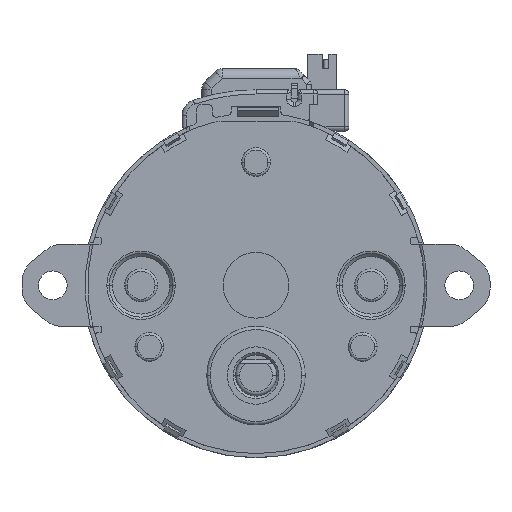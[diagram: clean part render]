
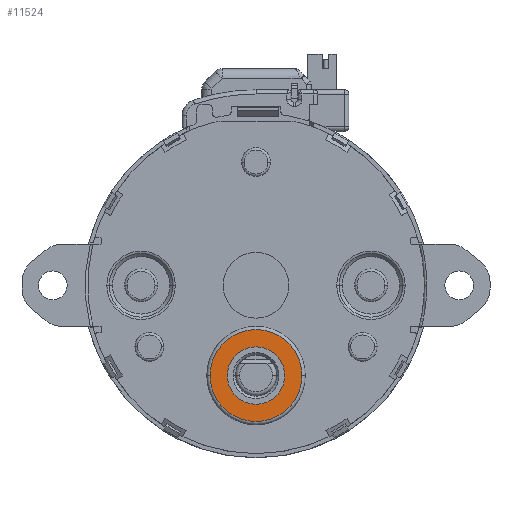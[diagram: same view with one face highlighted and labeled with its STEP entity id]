
A CAD part, top view. The second image highlights one B-rep face of the part: STEP entity #11524.
In plain terms, the highlighted planar face has unit normal (0, 0, 1).
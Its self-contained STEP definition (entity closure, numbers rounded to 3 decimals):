
#485 = FACE_BOUND ( 'NONE', #7708, .T. ) ;
#540 = ORIENTED_EDGE ( 'NONE', *, *, #4588, .T. ) ;
#629 = FACE_OUTER_BOUND ( 'NONE', #11352, .T. ) ;
#667 = CARTESIAN_POINT ( 'NONE',  ( 0., -11., -10.5 ) ) ;
#2025 = VERTEX_POINT ( 'NONE', #2318 ) ;
#2318 = CARTESIAN_POINT ( 'NONE',  ( 3.5, -11., -10.5 ) ) ;
#2348 = VERTEX_POINT ( 'NONE', #6330 ) ;
#2948 = DIRECTION ( 'NONE',  ( 1., 0., 0. ) ) ;
#4058 = CARTESIAN_POINT ( 'NONE',  ( 0., -11., -10.5 ) ) ;
#4200 = EDGE_CURVE ( 'NONE', #9332, #2025, #10684, .T. ) ;
#4588 = EDGE_CURVE ( 'NONE', #8639, #2348, #9660, .T. ) ;
#4835 = AXIS2_PLACEMENT_3D ( 'NONE', #14700, #6633, #7820 ) ;
#4952 = AXIS2_PLACEMENT_3D ( 'NONE', #4058, #8603, #2948 ) ;
#5103 = ORIENTED_EDGE ( 'NONE', *, *, #9840, .T. ) ;
#5586 = ORIENTED_EDGE ( 'NONE', *, *, #12063, .F. ) ;
#6138 = PLANE ( 'NONE',  #4952 ) ;
#6330 = CARTESIAN_POINT ( 'NONE',  ( -5.6, -11., -10.5 ) ) ;
#6633 = DIRECTION ( 'NONE',  ( 0., 0., 1. ) ) ;
#6708 = CARTESIAN_POINT ( 'NONE',  ( 5.6, -11., -10.5 ) ) ;
#7166 = ORIENTED_EDGE ( 'NONE', *, *, #4200, .F. ) ;
#7349 = CARTESIAN_POINT ( 'NONE',  ( 0., -11., -10.5 ) ) ;
#7418 = DIRECTION ( 'NONE',  ( 1., 0., 0. ) ) ;
#7435 = DIRECTION ( 'NONE',  ( 1., 0., 0. ) ) ;
#7708 = EDGE_LOOP ( 'NONE', ( #7166, #5586 ) ) ;
#7820 = DIRECTION ( 'NONE',  ( 1., 0., 0. ) ) ;
#8477 = AXIS2_PLACEMENT_3D ( 'NONE', #14637, #13451, #13386 ) ;
#8603 = DIRECTION ( 'NONE',  ( 0., 0., 1. ) ) ;
#8639 = VERTEX_POINT ( 'NONE', #6708 ) ;
#8775 = AXIS2_PLACEMENT_3D ( 'NONE', #667, #9677, #7435 ) ;
#9332 = VERTEX_POINT ( 'NONE', #13052 ) ;
#9656 = DIRECTION ( 'NONE',  ( 0., 0., 1. ) ) ;
#9660 = CIRCLE ( 'NONE', #11557, 5.6 ) ;
#9677 = DIRECTION ( 'NONE',  ( 0., 0., 1. ) ) ;
#9840 = EDGE_CURVE ( 'NONE', #2348, #8639, #11818, .T. ) ;
#10684 = CIRCLE ( 'NONE', #8775, 3.5 ) ;
#11275 = CIRCLE ( 'NONE', #4835, 3.5 ) ;
#11352 = EDGE_LOOP ( 'NONE', ( #540, #5103 ) ) ;
#11524 = ADVANCED_FACE ( 'NONE', ( #629, #485 ), #6138, .T. ) ;
#11557 = AXIS2_PLACEMENT_3D ( 'NONE', #7349, #9656, #7418 ) ;
#11818 = CIRCLE ( 'NONE', #8477, 5.6 ) ;
#12063 = EDGE_CURVE ( 'NONE', #2025, #9332, #11275, .T. ) ;
#13052 = CARTESIAN_POINT ( 'NONE',  ( -3.5, -11., -10.5 ) ) ;
#13386 = DIRECTION ( 'NONE',  ( 1., 0., 0. ) ) ;
#13451 = DIRECTION ( 'NONE',  ( 0., 0., 1. ) ) ;
#14637 = CARTESIAN_POINT ( 'NONE',  ( 0., -11., -10.5 ) ) ;
#14700 = CARTESIAN_POINT ( 'NONE',  ( 0., -11., -10.5 ) ) ;
